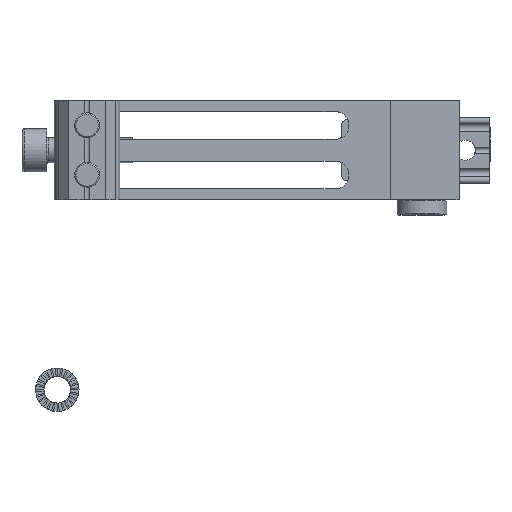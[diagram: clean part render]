
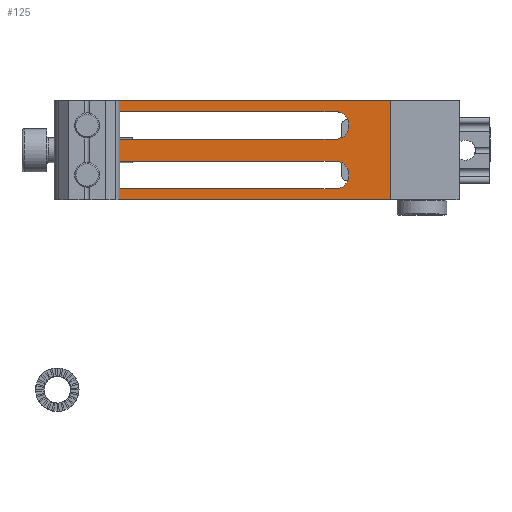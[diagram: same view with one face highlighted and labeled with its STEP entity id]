
A CAD part, top view. The second image highlights one B-rep face of the part: STEP entity #125.
In plain terms, the highlighted planar face has unit normal (0, 0, 1).
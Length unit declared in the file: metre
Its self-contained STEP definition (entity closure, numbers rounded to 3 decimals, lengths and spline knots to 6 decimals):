
#125 = ADVANCED_FACE( '', ( #213, #214, #215 ), #216, .T. );
#213 = FACE_BOUND( '', #327, .T. );
#214 = FACE_BOUND( '', #328, .T. );
#215 = FACE_OUTER_BOUND( '', #329, .T. );
#216 = PLANE( '', #330 );
#327 = EDGE_LOOP( '', ( #914, #915, #916, #917 ) );
#328 = EDGE_LOOP( '', ( #918, #919, #920, #921 ) );
#329 = EDGE_LOOP( '', ( #922, #923, #924, #925 ) );
#330 = AXIS2_PLACEMENT_3D( '', #926, #927, #928 );
#914 = ORIENTED_EDGE( '', *, *, #2097, .F. );
#915 = ORIENTED_EDGE( '', *, *, #2098, .F. );
#916 = ORIENTED_EDGE( '', *, *, #2099, .F. );
#917 = ORIENTED_EDGE( '', *, *, #2100, .F. );
#918 = ORIENTED_EDGE( '', *, *, #2101, .F. );
#919 = ORIENTED_EDGE( '', *, *, #2102, .F. );
#920 = ORIENTED_EDGE( '', *, *, #2094, .F. );
#921 = ORIENTED_EDGE( '', *, *, #2103, .F. );
#922 = ORIENTED_EDGE( '', *, *, #2104, .T. );
#923 = ORIENTED_EDGE( '', *, *, #2105, .T. );
#924 = ORIENTED_EDGE( '', *, *, #2106, .T. );
#925 = ORIENTED_EDGE( '', *, *, #2107, .T. );
#926 = CARTESIAN_POINT( '', ( -0.065149, -0.069, 0.005 ) );
#927 = DIRECTION( '', ( 0., 0., 1. ) );
#928 = DIRECTION( '', ( 1., 0., 0. ) );
#2094 = EDGE_CURVE( '', #3180, #3182, #3183, .T. );
#2097 = EDGE_CURVE( '', #3186, #3187, #3188, .T. );
#2098 = EDGE_CURVE( '', #3189, #3186, #3190, .T. );
#2099 = EDGE_CURVE( '', #3191, #3189, #3192, .T. );
#2100 = EDGE_CURVE( '', #3187, #3191, #3193, .T. );
#2101 = EDGE_CURVE( '', #3194, #3195, #3196, .T. );
#2102 = EDGE_CURVE( '', #3182, #3194, #3197, .T. );
#2103 = EDGE_CURVE( '', #3195, #3180, #3198, .T. );
#2104 = EDGE_CURVE( '', #3199, #3200, #3201, .T. );
#2105 = EDGE_CURVE( '', #3200, #3202, #3203, .T. );
#2106 = EDGE_CURVE( '', #3202, #3204, #3205, .T. );
#2107 = EDGE_CURVE( '', #3204, #3199, #3206, .T. );
#3180 = VERTEX_POINT( '', #7481 );
#3182 = VERTEX_POINT( '', #7484 );
#3183 = CIRCLE( '', #7485, 0.00225 );
#3186 = VERTEX_POINT( '', #7489 );
#3187 = VERTEX_POINT( '', #7490 );
#3188 = CIRCLE( '', #7491, 0.00225 );
#3189 = VERTEX_POINT( '', #7492 );
#3190 = LINE( '', #7493, #7494 );
#3191 = VERTEX_POINT( '', #7495 );
#3192 = CIRCLE( '', #7496, 0.00225 );
#3193 = LINE( '', #7497, #7498 );
#3194 = VERTEX_POINT( '', #7499 );
#3195 = VERTEX_POINT( '', #7500 );
#3196 = CIRCLE( '', #7501, 0.00225 );
#3197 = LINE( '', #7502, #7503 );
#3198 = LINE( '', #7504, #7505 );
#3199 = VERTEX_POINT( '', #7506 );
#3200 = VERTEX_POINT( '', #7507 );
#3201 = LINE( '', #7508, #7509 );
#3202 = VERTEX_POINT( '', #7510 );
#3203 = LINE( '', #7511, #7512 );
#3204 = VERTEX_POINT( '', #7513 );
#3205 = LINE( '', #7514, #7515 );
#3206 = LINE( '', #7516, #7517 );
#7481 = CARTESIAN_POINT( '', ( -0.009, -0.00625, 0.005 ) );
#7484 = CARTESIAN_POINT( '', ( -0.009, -0.00175, 0.005 ) );
#7485 = AXIS2_PLACEMENT_3D( '', #8980, #8981, #8982 );
#7489 = CARTESIAN_POINT( '', ( -0.049, 0.00625, 0.005 ) );
#7490 = CARTESIAN_POINT( '', ( -0.049, 0.00175, 0.005 ) );
#7491 = AXIS2_PLACEMENT_3D( '', #8984, #8985, #8986 );
#7492 = CARTESIAN_POINT( '', ( -0.009, 0.00625, 0.005 ) );
#7493 = CARTESIAN_POINT( '', ( -0.009, 0.00625, 0.005 ) );
#7494 = VECTOR( '', #8987, 1. );
#7495 = CARTESIAN_POINT( '', ( -0.009, 0.00175, 0.005 ) );
#7496 = AXIS2_PLACEMENT_3D( '', #8988, #8989, #8990 );
#7497 = CARTESIAN_POINT( '', ( -0.049, 0.00175, 0.005 ) );
#7498 = VECTOR( '', #8991, 1. );
#7499 = CARTESIAN_POINT( '', ( -0.049, -0.00175, 0.005 ) );
#7500 = CARTESIAN_POINT( '', ( -0.049, -0.00625, 0.005 ) );
#7501 = AXIS2_PLACEMENT_3D( '', #8992, #8993, #8994 );
#7502 = CARTESIAN_POINT( '', ( -0.009, -0.00175, 0.005 ) );
#7503 = VECTOR( '', #8995, 1. );
#7504 = CARTESIAN_POINT( '', ( -0.049, -0.00625, 0.005 ) );
#7505 = VECTOR( '', #8996, 1. );
#7506 = CARTESIAN_POINT( '', ( -0.054, -0.008, 0.005 ) );
#7507 = CARTESIAN_POINT( '', ( 0., -0.008, 0.005 ) );
#7508 = CARTESIAN_POINT( '', ( -0.054, -0.008, 0.005 ) );
#7509 = VECTOR( '', #8997, 1. );
#7510 = CARTESIAN_POINT( '', ( 0., 0.008, 0.005 ) );
#7511 = CARTESIAN_POINT( '', ( 0., -0.069, 0.005 ) );
#7512 = VECTOR( '', #8998, 1. );
#7513 = CARTESIAN_POINT( '', ( -0.054, 0.008, 0.005 ) );
#7514 = CARTESIAN_POINT( '', ( 0.011, 0.008, 0.005 ) );
#7515 = VECTOR( '', #8999, 1. );
#7516 = CARTESIAN_POINT( '', ( -0.054, 0.008, 0.005 ) );
#7517 = VECTOR( '', #9000, 1. );
#8980 = CARTESIAN_POINT( '', ( -0.009, -0.004, 0.005 ) );
#8981 = DIRECTION( '', ( 0., 0., 1. ) );
#8982 = DIRECTION( '', ( 0., -1., 0. ) );
#8984 = CARTESIAN_POINT( '', ( -0.049, 0.004, 0.005 ) );
#8985 = DIRECTION( '', ( 0., 0., 1. ) );
#8986 = DIRECTION( '', ( 0., -1., 0. ) );
#8987 = DIRECTION( '', ( -1., 0., 0. ) );
#8988 = CARTESIAN_POINT( '', ( -0.009, 0.004, 0.005 ) );
#8989 = DIRECTION( '', ( 0., 0., 1. ) );
#8990 = DIRECTION( '', ( 0., -1., 0. ) );
#8991 = DIRECTION( '', ( 1., 0., 0. ) );
#8992 = CARTESIAN_POINT( '', ( -0.049, -0.004, 0.005 ) );
#8993 = DIRECTION( '', ( 0., 0., 1. ) );
#8994 = DIRECTION( '', ( 0., -1., 0. ) );
#8995 = DIRECTION( '', ( -1., 0., 0. ) );
#8996 = DIRECTION( '', ( 1., 0., 0. ) );
#8997 = DIRECTION( '', ( 1., 0., 0. ) );
#8998 = DIRECTION( '', ( 0., 1., 0. ) );
#8999 = DIRECTION( '', ( -1., 0., 0. ) );
#9000 = DIRECTION( '', ( 0., -1., 0. ) );
